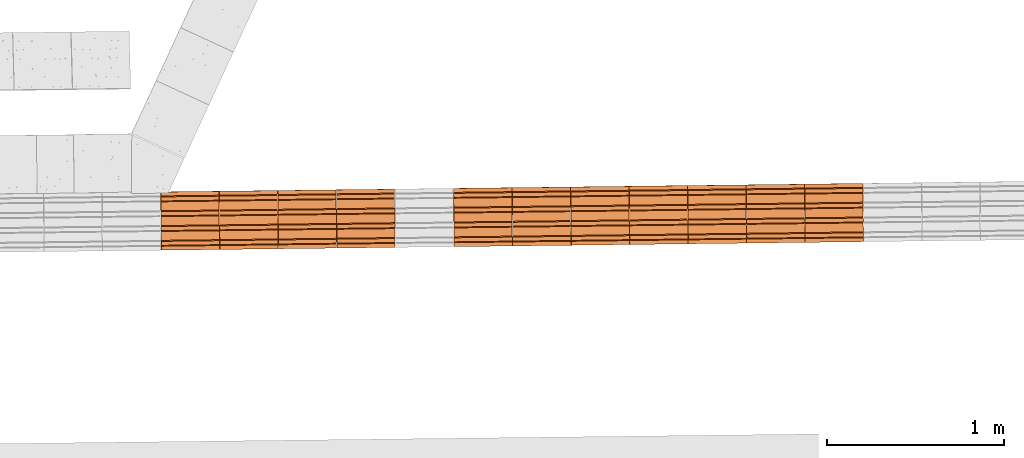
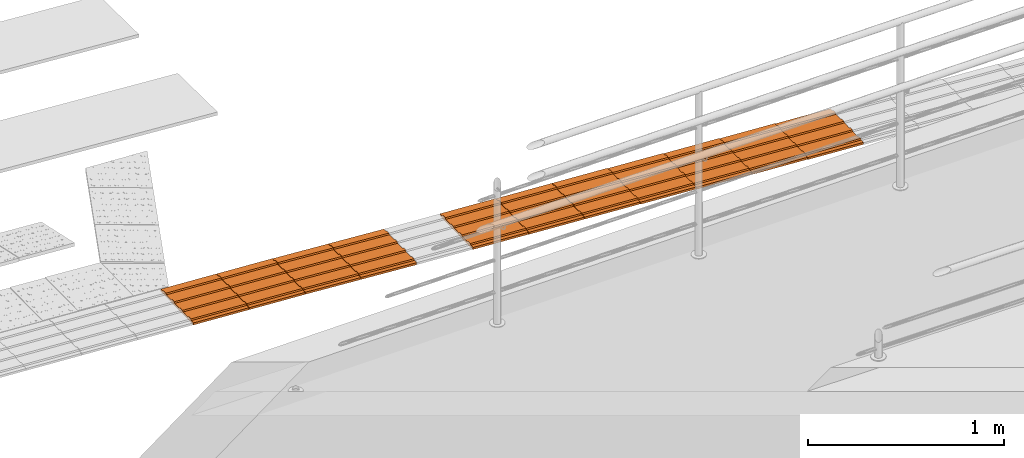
# One storey, part 181 of 237: 11 proxies.
"""IFC2X3 building model written with IfcOpenShell, lengths in millimetres."""

from ifc_helpers import new_model, entity, si_unit, converted_unit, derived_unit, money_unit, direction, frame, origin_with_axes, place, context, subcontext, project, spatial, open_shell, surface_model, source, transform, mapped, type_object, element, save


model = new_model("IFC2X3")

# Units and contexts
model_context = context("Model", 3, precision=0.01, world=origin_with_axes(), true_north=direction((0.0, 1.0)))
body_context = subcontext(model_context, "Body", "Model", "MODEL_VIEW")
ifc_project = project(units=[si_unit("LENGTHUNIT", "METRE", prefix="MILLI"), si_unit("AREAUNIT", "SQUARE_METRE"), si_unit("VOLUMEUNIT", "CUBIC_METRE"), converted_unit("PLANEANGLEUNIT", "DEGREE", entity("IfcPlaneAngleMeasure", 0.0174532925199), si_unit("PLANEANGLEUNIT", "RADIAN"), dimensions=[0, 0, 0, 0, 0, 0, 0]), money_unit("USD"), converted_unit("TIMEUNIT", "Year", entity("IfcTimeMeasure", 31556926.0), si_unit("TIMEUNIT", "SECOND"), dimensions=[0, 0, 1, 0, 0, 0, 0]), si_unit("MASSUNIT", "GRAM", prefix="KILO"), si_unit("THERMODYNAMICTEMPERATUREUNIT", "DEGREE_CELSIUS"), si_unit("LUMINOUSINTENSITYUNIT", "LUMEN"), si_unit("ENERGYUNIT", "JOULE", prefix="MEGA"), derived_unit("THERMALCONDUCTANCEUNIT", [(si_unit("POWERUNIT", "WATT"), 1), (si_unit("LENGTHUNIT", "METRE"), -1), (si_unit("THERMODYNAMICTEMPERATUREUNIT", "KELVIN"), -1)]), derived_unit("SPECIFICHEATCAPACITYUNIT", [(si_unit("ENERGYUNIT", "JOULE"), 1), (si_unit("MASSUNIT", "GRAM", prefix="KILO"), -1), (si_unit("THERMODYNAMICTEMPERATUREUNIT", "KELVIN"), -1)]), derived_unit("MASSDENSITYUNIT", [(si_unit("MASSUNIT", "GRAM", prefix="KILO"), 1), (si_unit("VOLUMEUNIT", "CUBIC_METRE"), -1)])], contexts=[model_context])

# Site, building, storey
site_placement = place(None, origin_with_axes())
site = spatial("IfcSite", under=ifc_project, at=site_placement, Name="Local", CompositionType="ELEMENT")
building_placement = place(site_placement, origin_with_axes())
building = spatial("IfcBuilding", under=site, at=building_placement, Name="Construção", CompositionType="ELEMENT")
storey_placement = place(building_placement, origin_with_axes())
storey = spatial("IfcBuildingStorey", under=building, at=storey_placement, Name="Pavimento Térreo", CompositionType="ELEMENT", Elevation=0.0)

# Proxies
building_element_proxy_type = type_object("IfcBuildingElementProxyType", Name="Piso Direcional 27", PredefinedType="NOTDEFINED")
shared_shape_1 = source(origin_with_axes(), body_context, "Body", "SurfaceModel", [
    surface_model("IfcShellBasedSurfaceModel", [(-0.395892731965, -47.0888435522, 5.66152983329), (328.800243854, -47.0888435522, 28.6811661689), (328.349100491, -41.2663671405, 35.1328168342), (-0.847036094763, -41.2663671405, 12.1131804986)], [open_shell([[[0, 1, 2, 3]]])]),
    surface_model("IfcShellBasedSurfaceModel", [(329.471050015, -153.76061908, 19.08819113), (330.274423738, 176.038353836, 7.59941164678), (329.344904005, 176.503680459, 20.8921631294), (329.290437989, 154.144428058, 21.6710634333), (328.812061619, 148.787278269, 28.5121642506), (328.757595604, 126.428025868, 29.2910645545), (329.208738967, 120.605549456, 22.8394138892), (329.086190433, 70.2972315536, 24.5919395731), (328.607814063, 64.9400817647, 31.4330403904), (328.553348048, 42.5808293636, 32.2119406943), (329.00449141, 36.758352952, 25.760290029), (328.881942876, -13.5499649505, 27.5128157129), (328.403566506, -18.9071147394, 34.3539165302), (328.349100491, -41.2663671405, 35.1328168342), (328.800243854, -47.0888435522, 28.6811661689), (328.67769532, -97.3971614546, 30.4336918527), (328.19931895, -102.754311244, 37.27479267), (328.144852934, -125.113563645, 38.053692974), (328.595996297, -130.936040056, 31.6020423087), (328.541530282, -153.295292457, 32.3809426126)], [open_shell([[[0, 1, 2, 3, 4, 5, 6, 7, 8, 9, 10, 11, 12, 13, 14, 15, 16, 17, 18, 19]]])]),
    surface_model("IfcShellBasedSurfaceModel", [(-0.792570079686, -18.9071147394, 11.3342801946), (328.403566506, -18.9071147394, 34.3539165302), (328.881942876, -13.5499649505, 27.5128157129), (-0.31419370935, -13.5499649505, 4.49317937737)], [open_shell([[[0, 1, 2, 3]]])]),
    surface_model("IfcShellBasedSurfaceModel", [(-0.996817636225, -102.754311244, 14.2551563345), (328.19931895, -102.754311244, 37.27479267), (328.67769532, -97.3971614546, 30.4336918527), (-0.518441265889, -97.3971614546, 7.41405551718)], [open_shell([[[0, 1, 2, 3]]])]),
    surface_model("IfcShellBasedSurfaceModel", [(-0.588322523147, 64.9400817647, 8.41340405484), (328.607814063, 64.9400817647, 31.4330403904), (329.086190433, 70.2972315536, 24.5919395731), (-0.109946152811, 70.2972315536, 1.57230323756)], [open_shell([[[0, 1, 2, 3]]])]),
    surface_model("IfcShellBasedSurfaceModel", [(-0.191645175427, 36.758352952, 2.74065369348), (329.00449141, 36.758352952, 25.760290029), (328.553348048, 42.5808293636, 32.2119406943), (-0.642788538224, 42.5808293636, 9.19230435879)], [open_shell([[[0, 1, 2, 3]]])]),
    surface_model("IfcShellBasedSurfaceModel", [(-0.600140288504, -130.936040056, 8.5824059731), (328.595996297, -130.936040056, 31.6020423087), (328.144852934, -125.113563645, 38.053692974), (-1.0512836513, -125.113563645, 15.0340566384)], [open_shell([[[0, 1, 2, 3]]])]),
    surface_model("IfcShellBasedSurfaceModel", [(0.148767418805, 176.503680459, -2.1274732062), (0.0943014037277, 154.144428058, -1.34857290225), (329.290437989, 154.144428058, 21.6710634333), (329.344904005, 176.503680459, 20.8921631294)], [open_shell([[[0, 1, 2, 3]]])]),
    surface_model("IfcShellBasedSurfaceModel", [(0.0126023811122, 120.605549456, -0.180222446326), (329.208738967, 120.605549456, 22.8394138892), (328.757595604, 126.428025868, 29.2910645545), (-0.438540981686, 126.428025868, 6.27142821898)], [open_shell([[[0, 1, 2, 3]]])]),
    surface_model("IfcShellBasedSurfaceModel", [(-0.384074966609, 148.787278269, 5.49252791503), (328.812061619, 148.787278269, 28.5121642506), (329.290437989, 154.144428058, 21.6710634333), (0.0943014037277, 154.144428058, -1.34857290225)], [open_shell([[[0, 1, 2, 3]]])]),
    surface_model("IfcShellBasedSurfaceModel", [(-0.191645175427, 36.758352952, 2.74065369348), (-0.31419370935, -13.5499649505, 4.49317937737), (328.881942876, -13.5499649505, 27.5128157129), (329.00449141, 36.758352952, 25.760290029)], [open_shell([[[0, 1, 2, 3]]])]),
    surface_model("IfcShellBasedSurfaceModel", [(0.0126023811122, 120.605549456, -0.180222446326), (-0.109946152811, 70.2972315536, 1.57230323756), (329.086190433, 70.2972315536, 24.5919395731), (329.208738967, 120.605549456, 22.8394138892)], [open_shell([[[0, 1, 2, 3]]])]),
    surface_model("IfcShellBasedSurfaceModel", [(-0.384074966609, 148.787278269, 5.49252791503), (-0.438540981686, 126.428025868, 6.27142821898), (328.757595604, 126.428025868, 29.2910645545), (328.812061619, 148.787278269, 28.5121642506)], [open_shell([[[0, 1, 2, 3]]])]),
    surface_model("IfcShellBasedSurfaceModel", [(0.0126023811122, 120.605549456, -0.180222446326), (-0.438540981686, 126.428025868, 6.27142821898), (-0.384074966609, 148.787278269, 5.49252791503), (0.0943014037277, 154.144428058, -1.34857290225), (0.148767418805, 176.503680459, -2.1274732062), (1.07828715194, 176.038353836, -15.4202246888), (0.274913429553, -153.76061908, -3.93144520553), (-0.654606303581, -153.295292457, 9.36130627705), (-0.600140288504, -130.936040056, 8.5824059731), (-1.0512836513, -125.113563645, 15.0340566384), (-0.996817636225, -102.754311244, 14.2551563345), (-0.518441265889, -97.3971614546, 7.41405551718), (-0.395892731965, -47.0888435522, 5.66152983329), (-0.847036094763, -41.2663671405, 12.1131804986), (-0.792570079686, -18.9071147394, 11.3342801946), (-0.31419370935, -13.5499649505, 4.49317937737), (-0.191645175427, 36.758352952, 2.74065369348), (-0.642788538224, 42.5808293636, 9.19230435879), (-0.588322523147, 64.9400817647, 8.41340405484), (-0.109946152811, 70.2972315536, 1.57230323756)], [open_shell([[[0, 1, 2, 3, 4, 5, 6, 7, 8, 9, 10, 11, 12, 13, 14, 15, 16, 17, 18, 19]]])]),
    surface_model("IfcShellBasedSurfaceModel", [(328.349100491, -41.2663671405, 35.1328168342), (328.403566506, -18.9071147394, 34.3539165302), (-0.792570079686, -18.9071147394, 11.3342801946), (-0.847036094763, -41.2663671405, 12.1131804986)], [open_shell([[[0, 1, 2, 3]]])]),
    surface_model("IfcShellBasedSurfaceModel", [(-0.395892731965, -47.0888435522, 5.66152983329), (-0.518441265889, -97.3971614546, 7.41405551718), (328.67769532, -97.3971614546, 30.4336918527), (328.800243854, -47.0888435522, 28.6811661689)], [open_shell([[[0, 1, 2, 3]]])]),
    surface_model("IfcShellBasedSurfaceModel", [(328.553348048, 42.5808293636, 32.2119406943), (328.607814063, 64.9400817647, 31.4330403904), (-0.588322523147, 64.9400817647, 8.41340405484), (-0.642788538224, 42.5808293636, 9.19230435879)], [open_shell([[[0, 1, 2, 3]]])]),
    surface_model("IfcShellBasedSurfaceModel", [(328.144852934, -125.113563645, 38.053692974), (328.19931895, -102.754311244, 37.27479267), (-0.996817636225, -102.754311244, 14.2551563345), (-1.0512836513, -125.113563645, 15.0340566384)], [open_shell([[[0, 1, 2, 3]]])]),
    surface_model("IfcShellBasedSurfaceModel", [(330.274423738, 176.038353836, 7.59941164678), (1.07828715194, 176.038353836, -15.4202246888), (0.148767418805, 176.503680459, -2.1274732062), (329.344904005, 176.503680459, 20.8921631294)], [open_shell([[[0, 1, 2, 3]]])]),
    surface_model("IfcShellBasedSurfaceModel", [(329.471050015, -153.76061908, 19.08819113), (0.274913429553, -153.76061908, -3.93144520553), (1.07828715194, 176.038353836, -15.4202246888), (330.274423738, 176.038353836, 7.59941164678)], [open_shell([[[0, 1, 2, 3]]])]),
    surface_model("IfcShellBasedSurfaceModel", [(328.541530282, -153.295292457, 32.3809426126), (328.595996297, -130.936040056, 31.6020423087), (-0.600140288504, -130.936040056, 8.5824059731), (-0.654606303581, -153.295292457, 9.36130627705)], [open_shell([[[0, 1, 2, 3]]])]),
    surface_model("IfcShellBasedSurfaceModel", [(0.274913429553, -153.76061908, -3.93144520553), (329.471050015, -153.76061908, 19.08819113), (328.541530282, -153.295292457, 32.3809426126), (-0.654606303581, -153.295292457, 9.36130627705)], [open_shell([[[0, 1, 2, 3]]])]),
])
for number, where, z_axis, x_axis, name in (
    (1, (54151.0027856, 36705.532438, -1812.72607173), (0.0, 0.0, 1.0), (-0.999926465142, -0.012127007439, 0.0), "Objeto-0055"),
    (2, (54482.4388919, 36709.5520617, -1835.99839118), (0.0, 0.0, 1.0), (-0.999926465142, -0.012127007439, 0.0), "Objeto-0055"),
    (3, (55808.2174999, 36725.6309711, -1935.55994467), (0.0, 0.0, 1.0), (-0.999926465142, -0.012127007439, 0.0), "Objeto-0055"),
    (4, (56139.5605099, 36729.6494658, -1959.81433194), (0.0, 0.0, 1.0), (-0.999926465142, -0.012127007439, 0.0), "Objeto-0055"),
    (5, (56470.9624491, 36733.6686751, -1983.22592995), (0.0, 0.0, 1.0), (-0.999926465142, -0.012127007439, 0.0), "Objeto-0055"),
    (6, (56801.9197478, 36737.6824919, -2008.85149469), (0.0, 0.0, 1.0), (-0.999926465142, -0.012127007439, 0.0), "Objeto-0055"),
    (7, (57132.8770465, 36741.6963087, -2034.47705944), (0.0, 0.0, 1.0), (-0.999926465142, -0.012127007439, 0.0), "Objeto-0055"),
    (8, (57463.8343452, 36745.7101254, -2060.10262418), (0.0, 0.0, 1.0), (-0.999926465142, -0.012127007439, 0.0), "Objeto-0055"),
    (9, (57794.7916439, 36749.7239422, -2085.72818892), (0.0, 0.0, 1.0), (-0.999926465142, -0.012127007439, 0.0), "Objeto-0055"),
):
    element("IfcBuildingElementProxy", number, at=place(storey_placement, frame(where, z_axis=z_axis, x_axis=x_axis)), inside=storey, type_object=building_element_proxy_type, Name=name, context=body_context, shape_type="MappedRepresentation", body=[
        mapped(shared_shape_1, transform((0.0, 0.0, 0.0))),
    ])
shared_shape_2 = source(origin_with_axes(), body_context, "Body", "SurfaceModel", [
    surface_model("IfcShellBasedSurfaceModel", [(-0.432384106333, -47.1083673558, 5.49396097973), (328.550336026, -47.1083673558, 31.3854625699), (328.041317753, -41.3085018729, 37.8531529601), (-0.941402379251, -41.3085018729, 11.9616513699)], [open_shell([[[0, 1, 2, 3]]])]),
    surface_model("IfcShellBasedSurfaceModel", [(329.334040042, -153.745925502, 21.4275588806), (330.147311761, 176.091239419, 11.0939619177), (329.101706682, 176.51004954, 24.3796341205), (329.046569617, 154.14820785, 25.0802169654), (328.509982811, 148.767152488, 31.898198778), (328.454845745, 126.405310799, 32.598781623), (328.963864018, 120.605445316, 26.1310912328), (328.83980562, 70.2913015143, 27.707402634), (328.303218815, 64.9102461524, 34.5253844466), (328.248081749, 42.5484044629, 35.2259672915), (328.757100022, 36.74853898, 28.7582769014), (328.633041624, -13.5656048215, 30.3345883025), (328.096454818, -18.9466601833, 37.1525701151), (328.041317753, -41.3085018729, 37.8531529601), (328.550336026, -47.1083673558, 31.3854625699), (328.426277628, -97.4225111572, 32.961773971), (327.889690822, -102.803566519, 39.7797557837), (327.834553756, -125.165408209, 40.4803386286), (328.343572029, -130.965273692, 34.0126482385), (328.288434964, -153.327115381, 34.7132310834)], [open_shell([[[0, 1, 2, 3, 4, 5, 6, 7, 8, 9, 10, 11, 12, 13, 14, 15, 16, 17, 18, 19]]])]),
    surface_model("IfcShellBasedSurfaceModel", [(-0.886265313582, -18.9466601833, 11.2610685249), (328.096454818, -18.9466601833, 37.1525701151), (328.633041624, -13.5656048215, 30.3345883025), (-0.349678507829, -13.5656048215, 4.44308671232)], [open_shell([[[0, 1, 2, 3]]])]),
    surface_model("IfcShellBasedSurfaceModel", [(-1.09302930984, -102.803566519, 13.8882541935), (327.889690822, -102.803566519, 39.7797557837), (328.426277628, -97.4225111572, 32.961773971), (-0.556442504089, -97.4225111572, 7.07027238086)], [open_shell([[[0, 1, 2, 3]]])]),
    surface_model("IfcShellBasedSurfaceModel", [(-0.679501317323, 64.9102461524, 8.6338828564), (328.303218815, 64.9102461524, 34.5253844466), (328.83980562, 70.2913015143, 27.707402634), (-0.14291451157, 70.2913015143, 1.81590104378)], [open_shell([[[0, 1, 2, 3]]])]),
    surface_model("IfcShellBasedSurfaceModel", [(-0.225620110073, 36.74853898, 2.86677531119), (328.757100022, 36.74853898, 28.7582769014), (328.248081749, 42.5484044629, 35.2259672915), (-0.734638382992, 42.5484044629, 9.33446570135)], [open_shell([[[0, 1, 2, 3]]])]),
    surface_model("IfcShellBasedSurfaceModel", [(-0.639148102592, -130.965273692, 8.12114664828), (328.343572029, -130.965273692, 34.0126482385), (327.834553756, -125.165408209, 40.4803386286), (-1.14816637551, -125.165408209, 14.5888370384)], [open_shell([[[0, 1, 2, 3]]])]),
    surface_model("IfcShellBasedSurfaceModel", [(0.118986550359, 176.51004954, -1.51186746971), (0.0638494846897, 154.14820785, -0.811284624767), (329.046569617, 154.14820785, 25.0802169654), (329.101706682, 176.51004954, 24.3796341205)], [open_shell([[[0, 1, 2, 3]]])]),
    surface_model("IfcShellBasedSurfaceModel", [(-0.0188561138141, 120.605445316, 0.23958964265), (328.963864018, 120.605445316, 26.1310912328), (328.454845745, 126.405310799, 32.598781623), (-0.527874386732, 126.405310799, 6.7072800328)], [open_shell([[[0, 1, 2, 3]]])]),
    surface_model("IfcShellBasedSurfaceModel", [(-0.472737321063, 148.767152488, 6.00669718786), (328.509982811, 148.767152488, 31.898198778), (329.046569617, 154.14820785, 25.0802169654), (0.0638494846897, 154.14820785, -0.811284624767)], [open_shell([[[0, 1, 2, 3]]])]),
    surface_model("IfcShellBasedSurfaceModel", [(-0.225620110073, 36.74853898, 2.86677531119), (-0.349678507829, -13.5656048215, 4.44308671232), (328.633041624, -13.5656048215, 30.3345883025), (328.757100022, 36.74853898, 28.7582769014)], [open_shell([[[0, 1, 2, 3]]])]),
    surface_model("IfcShellBasedSurfaceModel", [(-0.0188561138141, 120.605445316, 0.23958964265), (-0.14291451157, 70.2913015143, 1.81590104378), (328.83980562, 70.2913015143, 27.707402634), (328.963864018, 120.605445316, 26.1310912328)], [open_shell([[[0, 1, 2, 3]]])]),
    surface_model("IfcShellBasedSurfaceModel", [(-0.472737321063, 148.767152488, 6.00669718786), (-0.527874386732, 126.405310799, 6.7072800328), (328.454845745, 126.405310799, 32.598781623), (328.509982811, 148.767152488, 31.898198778)], [open_shell([[[0, 1, 2, 3]]])]),
    surface_model("IfcShellBasedSurfaceModel", [(-0.0188561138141, 120.605445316, 0.23958964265), (-0.527874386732, 126.405310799, 6.7072800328), (-0.472737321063, 148.767152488, 6.00669718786), (0.0638494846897, 154.14820785, -0.811284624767), (0.118986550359, 176.51004954, -1.51186746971), (1.16459162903, 176.091239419, -14.7975396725), (0.35131991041, -153.745925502, -4.46394270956), (-0.694285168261, -153.327115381, 8.82172949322), (-0.639148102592, -130.965273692, 8.12114664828), (-1.14816637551, -125.165408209, 14.5888370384), (-1.09302930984, -102.803566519, 13.8882541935), (-0.556442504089, -97.4225111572, 7.07027238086), (-0.432384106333, -47.1083673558, 5.49396097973), (-0.941402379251, -41.3085018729, 11.9616513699), (-0.886265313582, -18.9466601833, 11.2610685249), (-0.349678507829, -13.5656048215, 4.44308671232), (-0.225620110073, 36.74853898, 2.86677531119), (-0.734638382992, 42.5484044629, 9.33446570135), (-0.679501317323, 64.9102461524, 8.6338828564), (-0.14291451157, 70.2913015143, 1.81590104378)], [open_shell([[[0, 1, 2, 3, 4, 5, 6, 7, 8, 9, 10, 11, 12, 13, 14, 15, 16, 17, 18, 19]]])]),
    surface_model("IfcShellBasedSurfaceModel", [(328.041317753, -41.3085018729, 37.8531529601), (328.096454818, -18.9466601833, 37.1525701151), (-0.886265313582, -18.9466601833, 11.2610685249), (-0.941402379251, -41.3085018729, 11.9616513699)], [open_shell([[[0, 1, 2, 3]]])]),
    surface_model("IfcShellBasedSurfaceModel", [(-0.432384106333, -47.1083673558, 5.49396097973), (-0.556442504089, -97.4225111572, 7.07027238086), (328.426277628, -97.4225111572, 32.961773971), (328.550336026, -47.1083673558, 31.3854625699)], [open_shell([[[0, 1, 2, 3]]])]),
    surface_model("IfcShellBasedSurfaceModel", [(328.248081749, 42.5484044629, 35.2259672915), (328.303218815, 64.9102461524, 34.5253844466), (-0.679501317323, 64.9102461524, 8.6338828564), (-0.734638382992, 42.5484044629, 9.33446570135)], [open_shell([[[0, 1, 2, 3]]])]),
    surface_model("IfcShellBasedSurfaceModel", [(327.834553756, -125.165408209, 40.4803386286), (327.889690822, -102.803566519, 39.7797557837), (-1.09302930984, -102.803566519, 13.8882541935), (-1.14816637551, -125.165408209, 14.5888370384)], [open_shell([[[0, 1, 2, 3]]])]),
    surface_model("IfcShellBasedSurfaceModel", [(330.147311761, 176.091239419, 11.0939619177), (1.16459162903, 176.091239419, -14.7975396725), (0.118986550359, 176.51004954, -1.51186746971), (329.101706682, 176.51004954, 24.3796341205)], [open_shell([[[0, 1, 2, 3]]])]),
    surface_model("IfcShellBasedSurfaceModel", [(329.334040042, -153.745925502, 21.4275588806), (0.35131991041, -153.745925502, -4.46394270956), (1.16459162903, 176.091239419, -14.7975396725), (330.147311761, 176.091239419, 11.0939619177)], [open_shell([[[0, 1, 2, 3]]])]),
    surface_model("IfcShellBasedSurfaceModel", [(328.288434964, -153.327115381, 34.7132310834), (328.343572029, -130.965273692, 34.0126482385), (-0.639148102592, -130.965273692, 8.12114664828), (-0.694285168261, -153.327115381, 8.82172949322)], [open_shell([[[0, 1, 2, 3]]])]),
    surface_model("IfcShellBasedSurfaceModel", [(0.35131991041, -153.745925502, -4.46394270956), (329.334040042, -153.745925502, 21.4275588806), (328.288434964, -153.327115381, 34.7132310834), (-0.694285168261, -153.327115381, 8.82172949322)], [open_shell([[[0, 1, 2, 3]]])]),
])
for number, where, z_axis, x_axis, name in (
    (10, (54813.7558971, 36713.570241, -1862.34887984), (0.0, 0.0, 1.0), (-0.999926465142, -0.012127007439, 0.0), "Objeto-0055"),
    (11, (55144.9585563, 36717.5870335, -1888.16653154), (0.0, 0.0, 1.0), (-0.999926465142, -0.012127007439, 0.0), "Objeto-0055"),
):
    element("IfcBuildingElementProxy", number, at=place(storey_placement, frame(where, z_axis=z_axis, x_axis=x_axis)), inside=storey, type_object=building_element_proxy_type, Name=name, context=body_context, shape_type="MappedRepresentation", body=[
        mapped(shared_shape_2, transform((0.0, 0.0, 0.0))),
    ])

save(model, "model.ifc")
